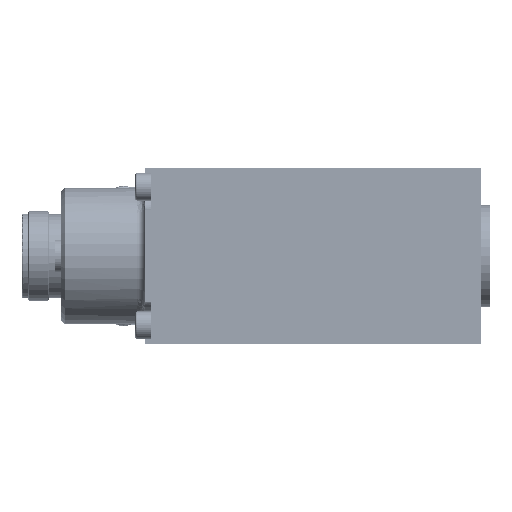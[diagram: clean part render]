
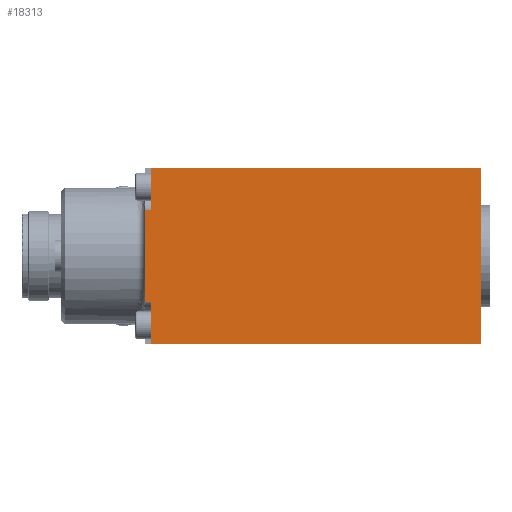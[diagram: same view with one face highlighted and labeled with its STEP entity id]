
A CAD part, front view. The second image highlights one B-rep face of the part: STEP entity #18313.
In plain terms, the highlighted planar face has unit normal (0, -1, 0).
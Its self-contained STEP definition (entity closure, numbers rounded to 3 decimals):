
#627 = VERTEX_POINT ( 'NONE', #140031 ) ;
#2695 = VECTOR ( 'NONE', #126057, 1000. ) ;
#5368 = CARTESIAN_POINT ( 'NONE',  ( 1.5, -22.5, -11.68 ) ) ;
#6487 = ORIENTED_EDGE ( 'NONE', *, *, #68404, .T. ) ;
#6760 = LINE ( 'NONE', #60690, #2695 ) ;
#15297 = DIRECTION ( 'NONE',  ( 0., 0., 1. ) ) ;
#16277 = VECTOR ( 'NONE', #56059, 1000. ) ;
#18313 = ADVANCED_FACE ( 'NONE', ( #167791 ), #151572, .F. ) ;
#18858 = ORIENTED_EDGE ( 'NONE', *, *, #60458, .F. ) ;
#19514 = DIRECTION ( 'NONE',  ( 0., 0., -1. ) ) ;
#23069 = LINE ( 'NONE', #32149, #154349 ) ;
#23674 = LINE ( 'NONE', #111703, #159077 ) ;
#24096 = CARTESIAN_POINT ( 'NONE',  ( 1.5, -22.5, 22.5 ) ) ;
#32149 = CARTESIAN_POINT ( 'NONE',  ( 0., -22.5, 22.5 ) ) ;
#33516 = EDGE_CURVE ( 'NONE', #627, #167121, #6760, .T. ) ;
#34939 = CARTESIAN_POINT ( 'NONE',  ( 0., -22.5, -11.68 ) ) ;
#36414 = DIRECTION ( 'NONE',  ( 0., 0., 1. ) ) ;
#40108 = LINE ( 'NONE', #75528, #144756 ) ;
#42863 = CARTESIAN_POINT ( 'NONE',  ( 86., -22.5, -22.5 ) ) ;
#43065 = CARTESIAN_POINT ( 'NONE',  ( 86., -22.5, -22.5 ) ) ;
#44558 = VERTEX_POINT ( 'NONE', #34939 ) ;
#46103 = VERTEX_POINT ( 'NONE', #149020 ) ;
#46577 = DIRECTION ( 'NONE',  ( -1., 0., 0. ) ) ;
#47263 = DIRECTION ( 'NONE',  ( 0., 0., 1. ) ) ;
#47342 = EDGE_CURVE ( 'NONE', #97483, #54849, #168982, .T. ) ;
#51146 = LINE ( 'NONE', #42863, #16277 ) ;
#54849 = VERTEX_POINT ( 'NONE', #98270 ) ;
#56059 = DIRECTION ( 'NONE',  ( -1., 0., 0. ) ) ;
#56383 = VERTEX_POINT ( 'NONE', #96652 ) ;
#59361 = VERTEX_POINT ( 'NONE', #43065 ) ;
#60458 = EDGE_CURVE ( 'NONE', #56383, #44558, #117942, .T. ) ;
#60690 = CARTESIAN_POINT ( 'NONE',  ( 86., -22.5, 22.5 ) ) ;
#64178 = ORIENTED_EDGE ( 'NONE', *, *, #98893, .F. ) ;
#64779 = CARTESIAN_POINT ( 'NONE',  ( 1.5, -22.5, 11.68 ) ) ;
#68404 = EDGE_CURVE ( 'NONE', #54849, #44558, #23069, .T. ) ;
#68674 = VECTOR ( 'NONE', #46577, 1000. ) ;
#70838 = DIRECTION ( 'NONE',  ( -1., 0., 0. ) ) ;
#75528 = CARTESIAN_POINT ( 'NONE',  ( 1.5, -22.5, 11.68 ) ) ;
#78659 = ORIENTED_EDGE ( 'NONE', *, *, #33516, .T. ) ;
#80759 = CARTESIAN_POINT ( 'NONE',  ( 1.5, -22.5, -11.68 ) ) ;
#84848 = EDGE_CURVE ( 'NONE', #97483, #167121, #40108, .T. ) ;
#85940 = DIRECTION ( 'NONE',  ( 0., 0., -1. ) ) ;
#86327 = CARTESIAN_POINT ( 'NONE',  ( 86., -22.5, 22.5 ) ) ;
#88567 = EDGE_CURVE ( 'NONE', #59361, #46103, #51146, .T. ) ;
#89184 = ORIENTED_EDGE ( 'NONE', *, *, #84848, .F. ) ;
#96652 = CARTESIAN_POINT ( 'NONE',  ( 1.5, -22.5, -11.68 ) ) ;
#97483 = VERTEX_POINT ( 'NONE', #64779 ) ;
#98270 = CARTESIAN_POINT ( 'NONE',  ( 0., -22.5, 11.68 ) ) ;
#98893 = EDGE_CURVE ( 'NONE', #46103, #56383, #118998, .T. ) ;
#109095 = ORIENTED_EDGE ( 'NONE', *, *, #47342, .T. ) ;
#110941 = EDGE_CURVE ( 'NONE', #627, #59361, #23674, .T. ) ;
#111703 = CARTESIAN_POINT ( 'NONE',  ( 86., -22.5, 22.5 ) ) ;
#117942 = LINE ( 'NONE', #5368, #148624 ) ;
#118998 = LINE ( 'NONE', #80759, #149660 ) ;
#125188 = CARTESIAN_POINT ( 'NONE',  ( 1.5, -22.5, 11.68 ) ) ;
#125189 = EDGE_LOOP ( 'NONE', ( #89184, #109095, #6487, #18858, #64178, #138007, #142045, #78659 ) ) ;
#125867 = DIRECTION ( 'NONE',  ( 0., 1., 0. ) ) ;
#126057 = DIRECTION ( 'NONE',  ( -1., 0., 0. ) ) ;
#138007 = ORIENTED_EDGE ( 'NONE', *, *, #88567, .F. ) ;
#140031 = CARTESIAN_POINT ( 'NONE',  ( 86., -22.5, 22.5 ) ) ;
#142045 = ORIENTED_EDGE ( 'NONE', *, *, #110941, .F. ) ;
#142743 = AXIS2_PLACEMENT_3D ( 'NONE', #86327, #125867, #47263 ) ;
#144756 = VECTOR ( 'NONE', #36414, 1000. ) ;
#148624 = VECTOR ( 'NONE', #70838, 1000. ) ;
#149020 = CARTESIAN_POINT ( 'NONE',  ( 1.5, -22.5, -22.5 ) ) ;
#149660 = VECTOR ( 'NONE', #15297, 1000. ) ;
#151572 = PLANE ( 'NONE',  #142743 ) ;
#154349 = VECTOR ( 'NONE', #19514, 1000. ) ;
#159077 = VECTOR ( 'NONE', #85940, 1000. ) ;
#167121 = VERTEX_POINT ( 'NONE', #24096 ) ;
#167791 = FACE_OUTER_BOUND ( 'NONE', #125189, .T. ) ;
#168982 = LINE ( 'NONE', #125188, #68674 ) ;
